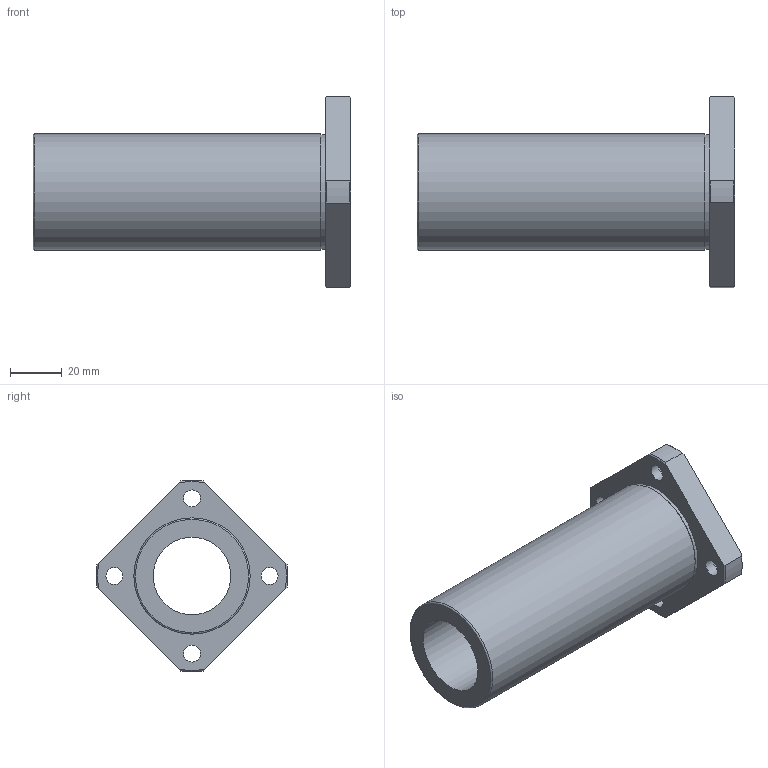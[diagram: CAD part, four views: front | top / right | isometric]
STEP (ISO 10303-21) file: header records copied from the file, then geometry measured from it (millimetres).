
FILE_DESCRIPTION(('STEP AP203'),'1');
FILE_NAME('//192.168.1.1/share/s-4 技術開発/s-4-4_CAD/s-4-4-3_見直し済み/002 修正済み/NFES-VL/NFES-VL_TOP/NFES-30VLUU.step','2022-03-08T00:53:57',(' '),(' '),'Spatial InterOp 3D',' ',' ');
FILE_SCHEMA(('CONFIG_CONTROL_DESIGN'));
Length unit declared in the file: millimetre
Products named in the file (1): 1
Bounding box: 123 x 73.95 x 73.95 mm (x, y, z)
Volume: 122806.1 mm3; surface area: 35842.9 mm2
Topology: 1 solids, 1 shells, 36 faces, 91 edges, 63 vertices
Faces by surface type: cylinder 15, plane 12, cone 8, torus 1
Full cylindrical faces by diameter (mm): 6.6 x4, 11 x4, 30 x1, 44.4 x1, 45 x1
Entity records: 1058 total; most frequent: CARTESIAN_POINT 211, DIRECTION 168, ORIENTED_EDGE 142, AXIS2_PLACEMENT_3D 76, EDGE_CURVE 71, EDGE_LOOP 64, VERTEX_POINT 55, FACE_OUTER_BOUND 48
